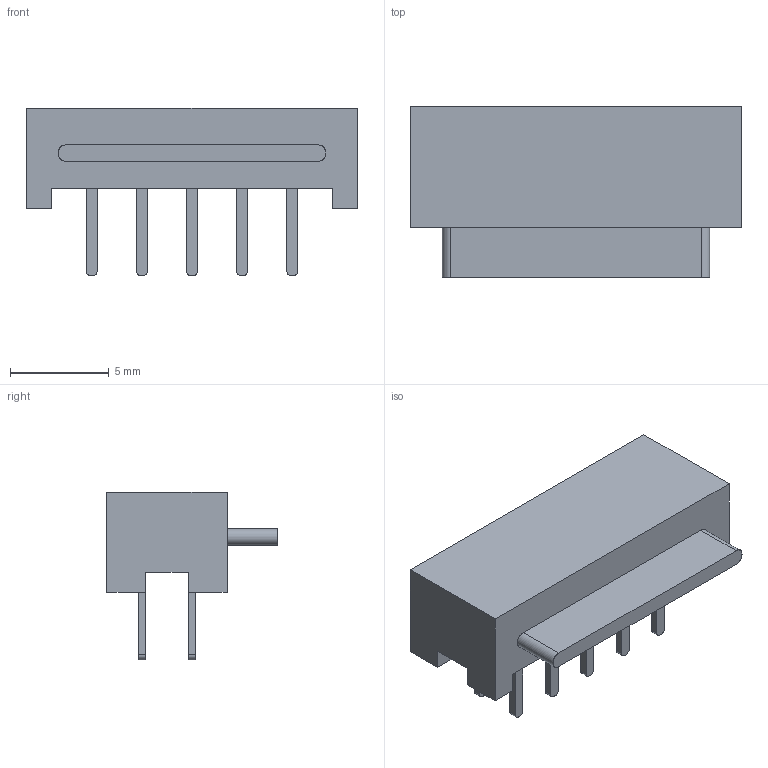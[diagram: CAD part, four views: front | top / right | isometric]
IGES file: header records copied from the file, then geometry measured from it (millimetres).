
Global section: file name: Q:\us254833\2015 Jobs\Rexroth_mold-pcb_wr12003\1M-A0A0-010-XXXX_iges.igs; native system: NX V9.0; preprocessor: SIEMENS PLM Software NX 9.0; date: 20150427.095232; units: inch
Bounding box: 16.76 x 8.64 x 8.51 mm (x, y, z)
Surface area: 570 mm2 (no closed solid volume)
Topology: 0 solids, 0 shells, 93 faces, 484 edges, 484 vertices
Faces by surface type: bspline 93
